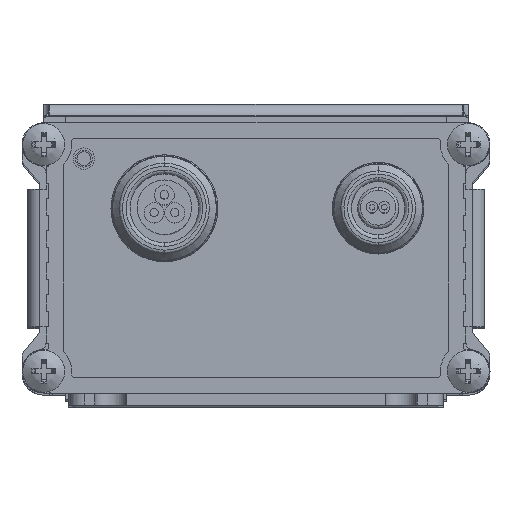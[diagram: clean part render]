
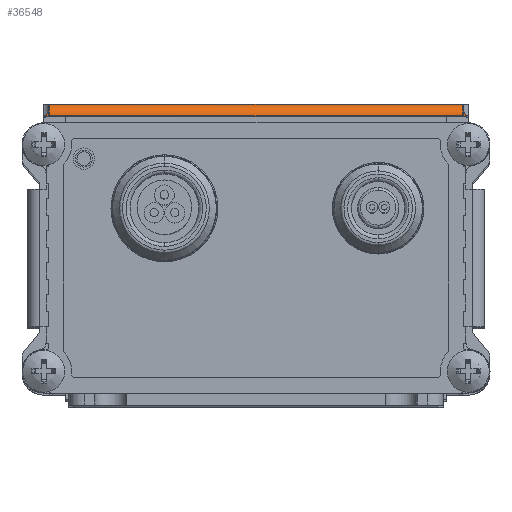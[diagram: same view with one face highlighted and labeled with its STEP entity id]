
A CAD part, top view. The second image highlights one B-rep face of the part: STEP entity #36548.
In plain terms, the highlighted cylindrical face has radius 1.6 mm (diameter 3.2 mm), a partial arc.
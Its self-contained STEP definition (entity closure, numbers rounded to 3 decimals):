
#223 = DIRECTION ( 'NONE',  ( -1., 0., 0. ) ) ;
#4816 = DIRECTION ( 'NONE',  ( 1., 0., 0. ) ) ;
#5160 = CARTESIAN_POINT ( 'NONE',  ( -27.135, 19.45, 79.705 ) ) ;
#5819 = EDGE_LOOP ( 'NONE', ( #41273, #17956, #25545, #32867 ) ) ;
#5988 = B_SPLINE_CURVE_WITH_KNOTS ( 'NONE', 3,
 ( #7464, #21117, #36827, #7886, #20512, #24288, #7680, #20711, #36606, #30243, #13968, #17984 ),
 .UNSPECIFIED., .F., .F.,
 ( 4, 2, 2, 2, 2, 4 ),
 ( 0., 0.001, 0.001, 0.002, 0.002, 0.003 ),
 .UNSPECIFIED. ) ;
#6208 = CARTESIAN_POINT ( 'NONE',  ( 27.518, 18.5, 80. ) ) ;
#7464 = CARTESIAN_POINT ( 'NONE',  ( 27.518, 18.5, 80. ) ) ;
#7623 = CARTESIAN_POINT ( 'NONE',  ( 0., 18.5, 80. ) ) ;
#7680 = CARTESIAN_POINT ( 'NONE',  ( 27.047, 19.752, 79.402 ) ) ;
#7788 = VERTEX_POINT ( 'NONE', #6208 ) ;
#7886 = CARTESIAN_POINT ( 'NONE',  ( 27.173, 19.268, 79.818 ) ) ;
#8372 = CARTESIAN_POINT ( 'NONE',  ( -27.087, 19.929, 79.129 ) ) ;
#8645 = CARTESIAN_POINT ( 'NONE',  ( -27.518, 18.5, 80. ) ) ;
#9425 = VERTEX_POINT ( 'NONE', #8645 ) ;
#10592 = EDGE_CURVE ( 'NONE', #10617, #25661, #38544, .T. ) ;
#10617 = VERTEX_POINT ( 'NONE', #33463 ) ;
#11002 = CYLINDRICAL_SURFACE ( 'NONE', #20268, 1.6 ) ;
#11525 = CARTESIAN_POINT ( 'NONE',  ( -27.127, 20.1, 78.508 ) ) ;
#13968 = CARTESIAN_POINT ( 'NONE',  ( 27.098, 20.1, 78.615 ) ) ;
#15050 = EDGE_CURVE ( 'NONE', #9425, #7788, #33810, .T. ) ;
#17636 = CARTESIAN_POINT ( 'NONE',  ( -27.312, 18.876, 79.958 ) ) ;
#17956 = ORIENTED_EDGE ( 'NONE', *, *, #15050, .T. ) ;
#17984 = CARTESIAN_POINT ( 'NONE',  ( 27.14, 20.1, 78.4 ) ) ;
#18053 = CARTESIAN_POINT ( 'NONE',  ( -27.273, 18.976, 79.931 ) ) ;
#18256 = CARTESIAN_POINT ( 'NONE',  ( -27.176, 19.264, 79.821 ) ) ;
#18571 = DIRECTION ( 'NONE',  ( -1., 0., 0. ) ) ;
#20268 = AXIS2_PLACEMENT_3D ( 'NONE', #22568, #18571, #21935 ) ;
#20512 = CARTESIAN_POINT ( 'NONE',  ( 27.102, 19.448, 79.707 ) ) ;
#20711 = CARTESIAN_POINT ( 'NONE',  ( 27.042, 19.876, 79.224 ) ) ;
#21117 = CARTESIAN_POINT ( 'NONE',  ( 27.421, 18.696, 80. ) ) ;
#21209 = CARTESIAN_POINT ( 'NONE',  ( -27.094, 19.753, 79.401 ) ) ;
#21935 = DIRECTION ( 'NONE',  ( 0., 0., 1. ) ) ;
#22568 = CARTESIAN_POINT ( 'NONE',  ( 55.072, 18.5, 78.4 ) ) ;
#23152 = EDGE_CURVE ( 'NONE', #25661, #9425, #33326, .T. ) ;
#24288 = CARTESIAN_POINT ( 'NONE',  ( 27.056, 19.681, 79.485 ) ) ;
#24366 = CARTESIAN_POINT ( 'NONE',  ( -27.116, 20.089, 78.615 ) ) ;
#25474 = EDGE_CURVE ( 'NONE', #7788, #10617, #5988, .T. ) ;
#25545 = ORIENTED_EDGE ( 'NONE', *, *, #25474, .T. ) ;
#25661 = VERTEX_POINT ( 'NONE', #29560 ) ;
#27739 = CARTESIAN_POINT ( 'NONE',  ( -27.404, 18.684, 79.992 ) ) ;
#27960 = CARTESIAN_POINT ( 'NONE',  ( -27.087, 19.876, 79.223 ) ) ;
#28160 = CARTESIAN_POINT ( 'NONE',  ( -27.099, 20.046, 78.825 ) ) ;
#29560 = CARTESIAN_POINT ( 'NONE',  ( -27.14, 20.1, 78.4 ) ) ;
#30243 = CARTESIAN_POINT ( 'NONE',  ( 27.067, 20.057, 78.829 ) ) ;
#32867 = ORIENTED_EDGE ( 'NONE', *, *, #10592, .T. ) ;
#33326 = B_SPLINE_CURVE_WITH_KNOTS ( 'NONE', 3,
 ( #37517, #11525, #24366, #28160, #37306, #8372, #27960, #21209, #34150, #5160, #18256, #18053, #17636, #27739, #40672, #37720 ),
 .UNSPECIFIED., .F., .F.,
 ( 4, 2, 2, 2, 2, 2, 2, 4 ),
 ( 0., 0., 0.001, 0.001, 0.001, 0.002, 0.002, 0.003 ),
 .UNSPECIFIED. ) ;
#33463 = CARTESIAN_POINT ( 'NONE',  ( 27.14, 20.1, 78.4 ) ) ;
#33810 = LINE ( 'NONE', #7623, #37934 ) ;
#34150 = CARTESIAN_POINT ( 'NONE',  ( -27.101, 19.682, 79.484 ) ) ;
#35948 = VECTOR ( 'NONE', #223, 1000. ) ;
#36548 = ADVANCED_FACE ( 'NONE', ( #39941 ), #11002, .T. ) ;
#36606 = CARTESIAN_POINT ( 'NONE',  ( 27.045, 19.929, 79.128 ) ) ;
#36827 = CARTESIAN_POINT ( 'NONE',  ( 27.33, 18.894, 79.964 ) ) ;
#37306 = CARTESIAN_POINT ( 'NONE',  ( -27.093, 20.013, 78.93 ) ) ;
#37517 = CARTESIAN_POINT ( 'NONE',  ( -27.14, 20.1, 78.4 ) ) ;
#37720 = CARTESIAN_POINT ( 'NONE',  ( -27.518, 18.5, 80. ) ) ;
#37934 = VECTOR ( 'NONE', #4816, 1000. ) ;
#38544 = LINE ( 'NONE', #41266, #35948 ) ;
#39941 = FACE_OUTER_BOUND ( 'NONE', #5819, .T. ) ;
#40672 = CARTESIAN_POINT ( 'NONE',  ( -27.456, 18.59, 80. ) ) ;
#41266 = CARTESIAN_POINT ( 'NONE',  ( 55.072, 20.1, 78.4 ) ) ;
#41273 = ORIENTED_EDGE ( 'NONE', *, *, #23152, .T. ) ;
